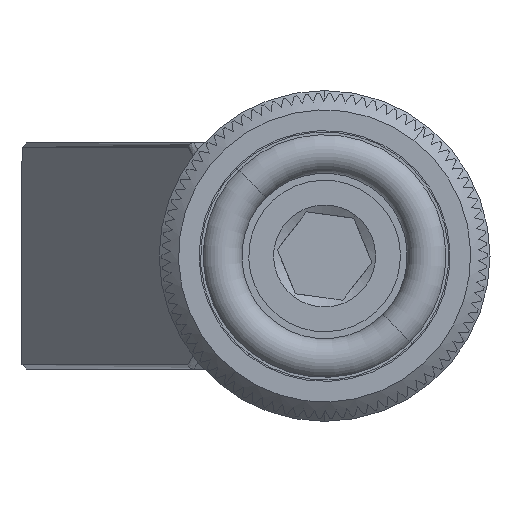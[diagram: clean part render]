
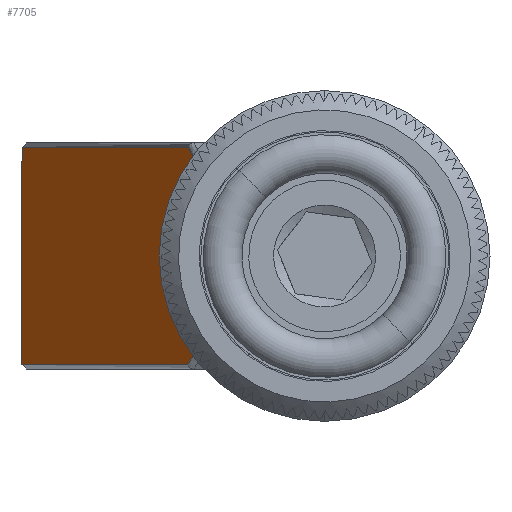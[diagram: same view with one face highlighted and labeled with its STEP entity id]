
A CAD part, front view. The second image highlights one B-rep face of the part: STEP entity #7705.
In plain terms, the highlighted planar face has unit normal (-0.985, -0.174, 0) as drawn and (0.174, -0.985, 0) by its records, which use the part's own axes.
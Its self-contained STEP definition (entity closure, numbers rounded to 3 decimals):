
#140 = VECTOR ( 'NONE', #14494, 1000. ) ;
#208 = B_SPLINE_CURVE_WITH_KNOTS ( 'NONE', 3,
 ( #1096, #15430, #11781, #5792, #9489, #2436, #1197, #13104 ),
 .UNSPECIFIED., .F., .F.,
 ( 4, 2, 2, 4 ),
 ( 0., 0.479, 0.718, 0.957 ),
 .UNSPECIFIED. ) ;
#374 = LINE ( 'NONE', #15093, #7656 ) ;
#551 = ORIENTED_EDGE ( 'NONE', *, *, #9844, .T. ) ;
#562 = ORIENTED_EDGE ( 'NONE', *, *, #626, .T. ) ;
#620 = CARTESIAN_POINT ( 'NONE',  ( 46.075, -6.482, -6.4 ) ) ;
#626 = EDGE_CURVE ( 'NONE', #1823, #10118, #2260, .T. ) ;
#1096 = CARTESIAN_POINT ( 'NONE',  ( 44.701, -6.725, -1.8 ) ) ;
#1197 = CARTESIAN_POINT ( 'NONE',  ( 35.647, -8.321, -0.423 ) ) ;
#1736 = CARTESIAN_POINT ( 'NONE',  ( 0.742, -14.476, -0.15 ) ) ;
#1823 = VERTEX_POINT ( 'NONE', #14762 ) ;
#2161 = LINE ( 'NONE', #7291, #140 ) ;
#2260 = LINE ( 'NONE', #10707, #3214 ) ;
#2370 = VECTOR ( 'NONE', #11083, 1000. ) ;
#2436 = CARTESIAN_POINT ( 'NONE',  ( 36.447, -8.18, -0.662 ) ) ;
#2619 = DIRECTION ( 'NONE',  ( 0.985, 0.174, 0. ) ) ;
#2691 = CARTESIAN_POINT ( 'NONE',  ( 43.028, -7.02, -6.4 ) ) ;
#2956 = VECTOR ( 'NONE', #7090, 1000. ) ;
#3214 = VECTOR ( 'NONE', #13363, 1000. ) ;
#3778 = PLANE ( 'NONE',  #6869 ) ;
#3888 = FACE_OUTER_BOUND ( 'NONE', #10862, .T. ) ;
#4080 = LINE ( 'NONE', #9334, #2956 ) ;
#4550 = EDGE_CURVE ( 'NONE', #11103, #7561, #12201, .T. ) ;
#4688 = EDGE_CURVE ( 'NONE', #7561, #13075, #12232, .T. ) ;
#5008 = CARTESIAN_POINT ( 'NONE',  ( 44.701, -6.725, -6.4 ) ) ;
#5260 = ORIENTED_EDGE ( 'NONE', *, *, #6990, .T. ) ;
#5792 = CARTESIAN_POINT ( 'NONE',  ( 38.885, -7.75, -1.246 ) ) ;
#6869 = AXIS2_PLACEMENT_3D ( 'NONE', #9726, #10843, #2619 ) ;
#6990 = EDGE_CURVE ( 'NONE', #10207, #8968, #4080, .T. ) ;
#7090 = DIRECTION ( 'NONE',  ( 0., 0., -1. ) ) ;
#7291 = CARTESIAN_POINT ( 'NONE',  ( 34.431, -8.535, -8.05 ) ) ;
#7561 = VERTEX_POINT ( 'NONE', #10571 ) ;
#7613 = CARTESIAN_POINT ( 'NONE',  ( 23.409, -10.479, -6.4 ) ) ;
#7656 = VECTOR ( 'NONE', #12904, 1000. ) ;
#7705 = ADVANCED_FACE ( 'NONE', ( #3888 ), #3778, .T. ) ;
#7802 = ORIENTED_EDGE ( 'NONE', *, *, #4688, .T. ) ;
#7993 = ORIENTED_EDGE ( 'NONE', *, *, #4550, .T. ) ;
#8008 = ORIENTED_EDGE ( 'NONE', *, *, #12602, .F. ) ;
#8354 = ORIENTED_EDGE ( 'NONE', *, *, #10049, .T. ) ;
#8683 = DIRECTION ( 'NONE',  ( 0.985, 0.174, 0. ) ) ;
#8823 = CARTESIAN_POINT ( 'NONE',  ( 44.701, -6.725, -1.8 ) ) ;
#8830 = EDGE_CURVE ( 'NONE', #14374, #10207, #11534, .T. ) ;
#8968 = VERTEX_POINT ( 'NONE', #12543 ) ;
#9049 = VECTOR ( 'NONE', #8683, 1000. ) ;
#9334 = CARTESIAN_POINT ( 'NONE',  ( 0.742, -14.476, 0. ) ) ;
#9340 = CARTESIAN_POINT ( 'NONE',  ( 34.855, -8.461, -0.15 ) ) ;
#9489 = CARTESIAN_POINT ( 'NONE',  ( 38.065, -7.895, -1.074 ) ) ;
#9726 = CARTESIAN_POINT ( 'NONE',  ( 23.409, -10.479, 0. ) ) ;
#9746 = CARTESIAN_POINT ( 'NONE',  ( 36.447, -8.18, -7.538 ) ) ;
#9844 = EDGE_CURVE ( 'NONE', #10118, #14374, #208, .T. ) ;
#10049 = EDGE_CURVE ( 'NONE', #8968, #11103, #2161, .T. ) ;
#10118 = VERTEX_POINT ( 'NONE', #8823 ) ;
#10207 = VERTEX_POINT ( 'NONE', #1736 ) ;
#10571 = CARTESIAN_POINT ( 'NONE',  ( 44.701, -6.725, -6.4 ) ) ;
#10707 = CARTESIAN_POINT ( 'NONE',  ( 23.409, -10.479, -1.8 ) ) ;
#10843 = DIRECTION ( 'NONE',  ( 0.174, -0.985, 0. ) ) ;
#10862 = EDGE_LOOP ( 'NONE', ( #551, #14480, #5260, #8354, #7993, #7802, #8008, #562 ) ) ;
#11083 = DIRECTION ( 'NONE',  ( -0.985, -0.174, 0. ) ) ;
#11103 = VERTEX_POINT ( 'NONE', #14496 ) ;
#11534 = LINE ( 'NONE', #13442, #2370 ) ;
#11781 = CARTESIAN_POINT ( 'NONE',  ( 41.359, -7.314, -1.661 ) ) ;
#12149 = CARTESIAN_POINT ( 'NONE',  ( 38.885, -7.75, -6.954 ) ) ;
#12201 = B_SPLINE_CURVE_WITH_KNOTS ( 'NONE', 3,
 ( #13459, #14507, #9746, #14555, #12149, #12251, #2691, #5008 ),
 .UNSPECIFIED., .F., .F.,
 ( 4, 2, 2, 4 ),
 ( 0.043, 0.282, 0.521, 1. ),
 .UNSPECIFIED. ) ;
#12232 = LINE ( 'NONE', #7613, #9049 ) ;
#12251 = CARTESIAN_POINT ( 'NONE',  ( 41.358, -7.314, -6.539 ) ) ;
#12543 = CARTESIAN_POINT ( 'NONE',  ( 0.742, -14.476, -8.05 ) ) ;
#12602 = EDGE_CURVE ( 'NONE', #1823, #13075, #374, .T. ) ;
#12904 = DIRECTION ( 'NONE',  ( 0., 0., -1. ) ) ;
#13075 = VERTEX_POINT ( 'NONE', #620 ) ;
#13104 = CARTESIAN_POINT ( 'NONE',  ( 34.855, -8.461, -0.15 ) ) ;
#13363 = DIRECTION ( 'NONE',  ( -0.985, -0.174, 0. ) ) ;
#13442 = CARTESIAN_POINT ( 'NONE',  ( 23.409, -10.479, -0.15 ) ) ;
#13459 = CARTESIAN_POINT ( 'NONE',  ( 34.856, -8.461, -8.05 ) ) ;
#14374 = VERTEX_POINT ( 'NONE', #9340 ) ;
#14480 = ORIENTED_EDGE ( 'NONE', *, *, #8830, .T. ) ;
#14494 = DIRECTION ( 'NONE',  ( 0.985, 0.174, 0. ) ) ;
#14496 = CARTESIAN_POINT ( 'NONE',  ( 34.856, -8.461, -8.05 ) ) ;
#14507 = CARTESIAN_POINT ( 'NONE',  ( 35.647, -8.321, -7.777 ) ) ;
#14555 = CARTESIAN_POINT ( 'NONE',  ( 38.065, -7.895, -7.126 ) ) ;
#14762 = CARTESIAN_POINT ( 'NONE',  ( 46.075, -6.482, -1.8 ) ) ;
#15093 = CARTESIAN_POINT ( 'NONE',  ( 46.075, -6.482, 0. ) ) ;
#15430 = CARTESIAN_POINT ( 'NONE',  ( 43.029, -7.019, -1.8 ) ) ;
